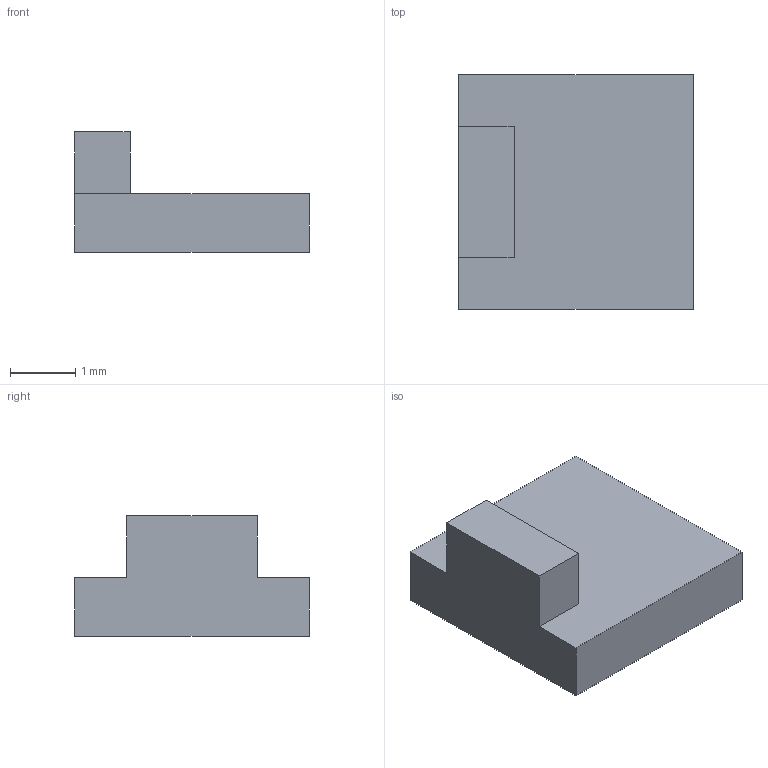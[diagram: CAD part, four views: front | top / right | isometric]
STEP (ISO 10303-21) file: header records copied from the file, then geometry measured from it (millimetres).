
FILE_DESCRIPTION(('Open CASCADE Model'),'2;1');
FILE_NAME('Open CASCADE Shape Model','2026-09-09T11:51:01',('Author'),( 'Open CASCADE'),'Open CASCADE STEP processor 7.7','Open CASCADE 7.7' ,'Unknown');
FILE_SCHEMA(('AUTOMOTIVE_DESIGN { 1 0 10303 214 1 1 1 1 }'));
Length unit declared in the file: millimetre
Products named in the file (1): Open CASCADE STEP translator 7.7 10
Bounding box: 3.6 x 3.6 x 1.85 mm (x, y, z)
Volume: 13.3 mm3; surface area: 44.3 mm2
Topology: 1 solids, 1 shells, 10 faces, 24 edges, 16 vertices
Faces by surface type: plane 10
Entity records: 610 total; most frequent: CARTESIAN_POINT 99, DIRECTION 94, LINE 72, VECTOR 72, ORIENTED_EDGE 48, PCURVE 48, DEFINITIONAL_REPRESENTATION 48, EDGE_CURVE 24
